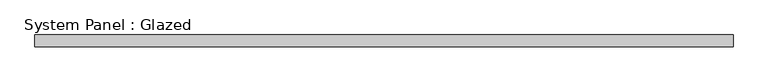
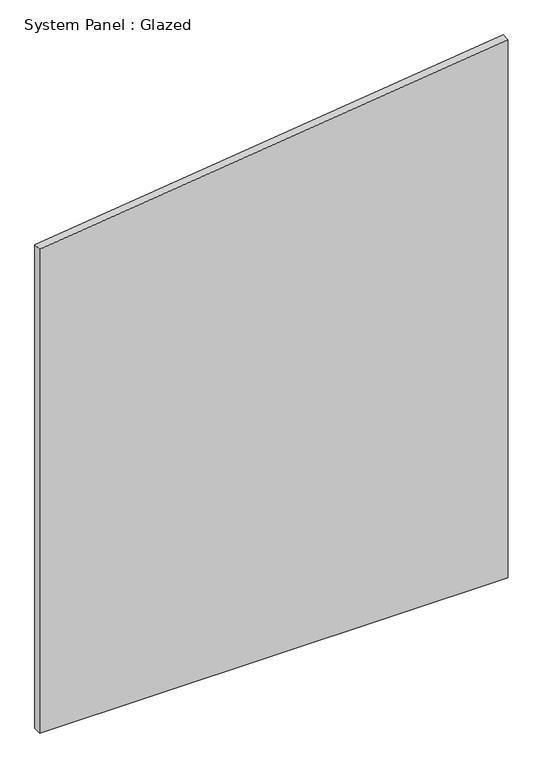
"""IFC4 building model written with IfcOpenShell, lengths in millimetres: plate geometry, System Panel : Glazed."""

from ifc_helpers import new_model, si_unit, frame, origin, place, context, project, spatial, polyline, outline, extrude, source, transform, mapped, element, save


def system_panel_glazed_049fbe71(model_context):
    return source(origin(), model_context, "Body", "SweptSolid", [
        extrude(outline(polyline([(0.0, -726.9631579), (0.0, 726.9631579), (1764.9817099, 726.9631579), (1586.4620057, -726.9631579), (0.0, -726.9631579)])), frame((0.0, 24.5, 0.0), z_axis=(0.0, 1.0, 0.0), x_axis=(0.0, 0.0, 1.0)), (0.0, 0.0, 1.0), 25.0),
    ])


if __name__ == "__main__":
    model = new_model("IFC4")
    model_context = context("Model", 3, world=origin())
    ifc_project = project(units=[si_unit("LENGTHUNIT", "METRE", prefix="MILLI")], contexts=[model_context])
    site = spatial("IfcSite", under=ifc_project)
    building = spatial("IfcBuilding", under=site)
    placement = place(None, origin())
    system_panel_glazed_shape = system_panel_glazed_049fbe71(model_context)
    element("IfcPlate", 1, ObjectType="System Panel : Glazed", at=placement, inside=building, context=model_context, shape_type="MappedRepresentation", body=[
        mapped(system_panel_glazed_shape, transform((0.0, 0.0, 0.0), x_axis=(1.0, 0.0, 0.0), y_axis=(0.0, 1.0, 0.0), z_axis=(0.0, 0.0, 1.0))),
    ])
    save(model, "model.ifc")
